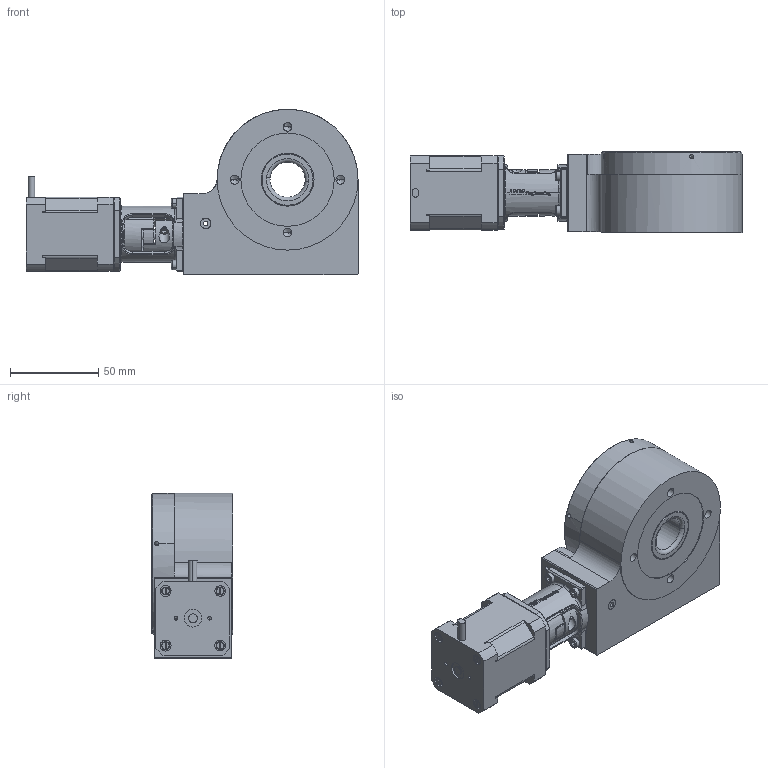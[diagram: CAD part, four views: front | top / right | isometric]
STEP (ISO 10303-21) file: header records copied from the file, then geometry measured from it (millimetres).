
FILE_DESCRIPTION (( 'STEP AP203' ), '1' );
FILE_NAME ('MDT36012-M.STEP', '2015-12-15T07:54:43', ( '' ), ( '' ), 'SwSTEP 2.0', 'SolidWorks 2014', '' );
FILE_SCHEMA (( 'CONFIG_CONTROL_DESIGN' ));
Length unit declared in the file: millimetre
Products named in the file (4): MDT36012-000-02-Drehscheibe-komplett; Schrittmotor-ohne-Steuerung-NSM17_n_Standard; MDT36012-M; MDT36012-000-01-Gehäuse-komplett
Assembly tree (3 placements, depth 2):
  MDT36012-M
    MDT36012-000-01-Gehäuse-komplett
    MDT36012-000-02-Drehscheibe-komplett
    Schrittmotor-ohne-Steuerung-NSM17_n_Standard
Bounding box: 188.5 x 46 x 94 mm (x, y, z)
Volume: 379088.1 mm3; surface area: 111577.4 mm2
Topology: 9 solids, 27 shells, 1775 faces, 4587 edges, 2933 vertices
Faces by surface type: cylinder 656, plane 521, bspline 325, cone 185, torus 88
Entity records: 70203 total; most frequent: CARTESIAN_POINT 29048, ORIENTED_EDGE 9074, DIRECTION 7537, EDGE_CURVE 4537, AXIS2_PLACEMENT_3D 2955, VERTEX_POINT 2933, EDGE_LOOP 2002, FACE_OUTER_BOUND 1775
